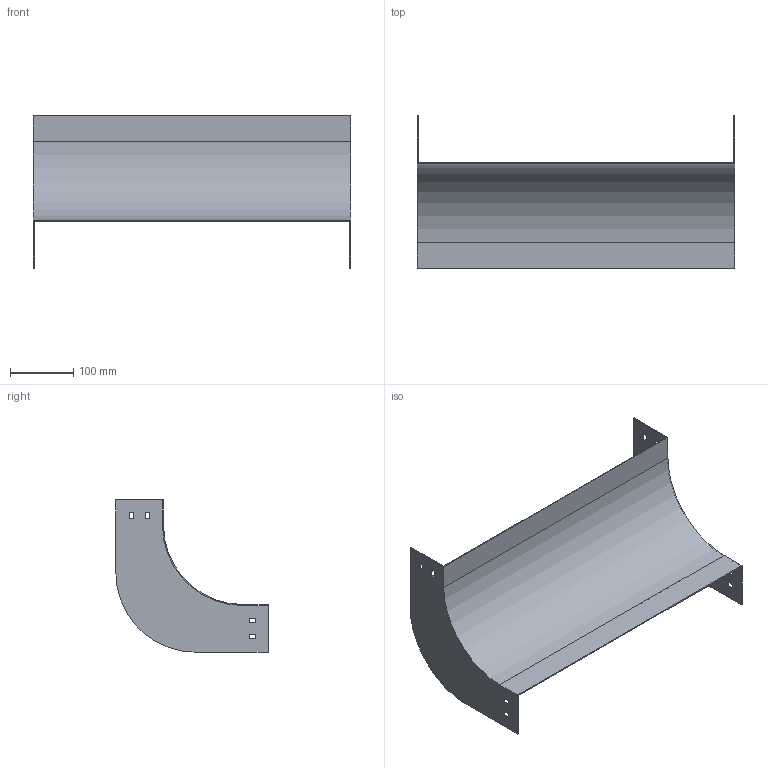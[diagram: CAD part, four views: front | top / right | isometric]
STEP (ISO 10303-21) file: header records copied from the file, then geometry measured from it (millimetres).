
FILE_DESCRIPTION (( 'STEP AP214' ), '1' );
FILE_NAME ('D9_507.step', '2025-07-16T09:09:16', ( '' ), ( '' ), 'SwSTEP 2.0', 'SolidWorks 2023', '' );
FILE_SCHEMA (( 'AUTOMOTIVE_DESIGN' ));
Length unit declared in the file: millimetre
Products named in the file (1): D9_507
Bounding box: 500 x 240 x 240 mm (x, y, z)
Volume: 297181.9 mm3; surface area: 399867 mm2
Topology: 1 solids, 1 shells, 50 faces, 144 edges, 96 vertices
Faces by surface type: plane 46, cylinder 4
Entity records: 1671 total; most frequent: CARTESIAN_POINT 291, ORIENTED_EDGE 288, DIRECTION 254, EDGE_CURVE 144, VECTOR 136, LINE 136, VERTEX_POINT 96, EDGE_LOOP 66
